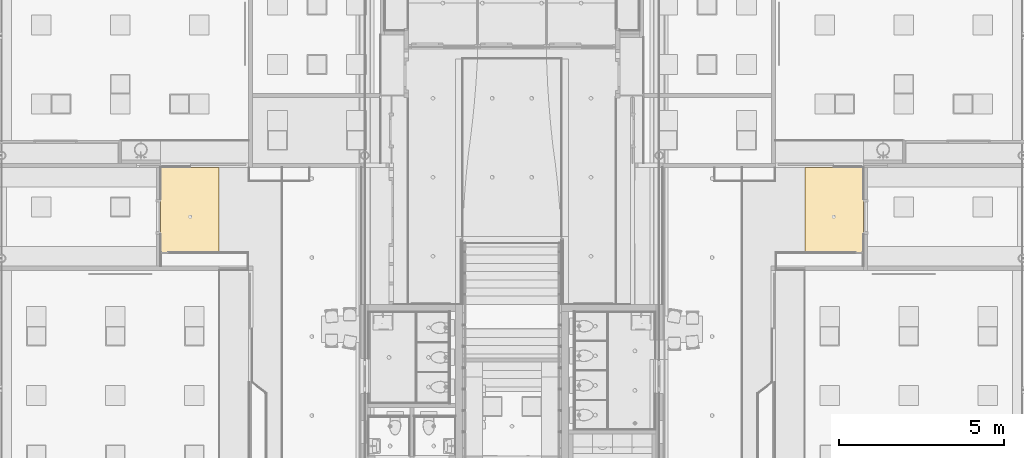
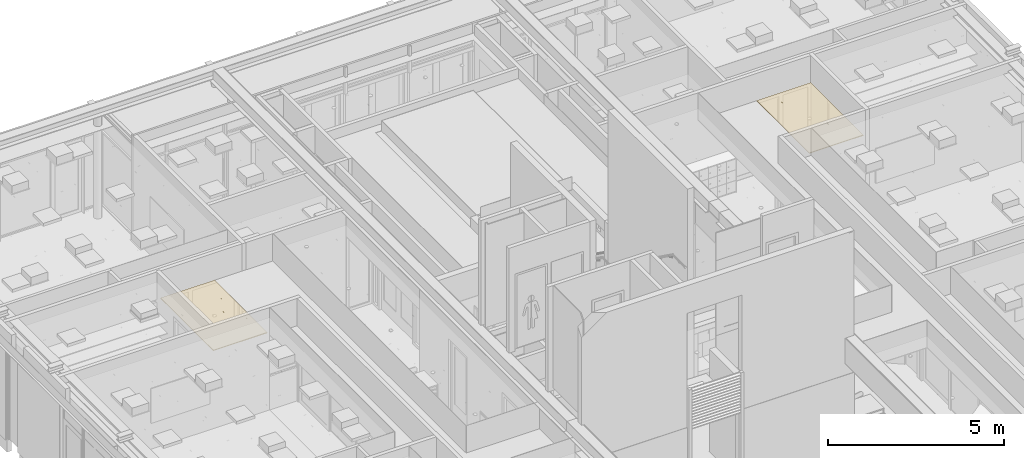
# One storey, part 154 of 347: 2 coverings.
"""IFC2X3 building model written with IfcOpenShell, lengths in millimetres."""

from ifc_helpers import new_model, entity, si_unit, converted_unit, derived_unit, money_unit, direction, frame, origin_with_axes, place, context, subcontext, project, spatial, faceted_brep, source, transform, mapped, type_object, type_shapes, element, save


model = new_model("IFC2X3")

# Units and contexts
model_context = context("Model", 3, precision=0.01, world=origin_with_axes(), true_north=direction((0.0, 1.0)))
plan_context = context("Plan", 3, precision=0.01, world=origin_with_axes(), true_north=direction((0.0, 1.0)))
body_context = subcontext(model_context, "Body", "Model", "MODEL_VIEW")
ifc_project = project(units=[si_unit("LENGTHUNIT", "METRE", prefix="MILLI"), si_unit("AREAUNIT", "SQUARE_METRE"), si_unit("VOLUMEUNIT", "CUBIC_METRE"), converted_unit("PLANEANGLEUNIT", "DEGREE", entity("IfcPlaneAngleMeasure", 0.0174532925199), si_unit("PLANEANGLEUNIT", "RADIAN"), dimensions=[0, 0, 0, 0, 0, 0, 0]), money_unit("EUR"), converted_unit("TIMEUNIT", "Year", entity("IfcTimeMeasure", 31556926.0), si_unit("TIMEUNIT", "SECOND"), dimensions=[0, 0, 1, 0, 0, 0, 0]), si_unit("MASSUNIT", "GRAM", prefix="KILO"), si_unit("THERMODYNAMICTEMPERATUREUNIT", "DEGREE_CELSIUS"), si_unit("LUMINOUSINTENSITYUNIT", "LUMEN"), si_unit("ENERGYUNIT", "JOULE", prefix="MEGA"), derived_unit("THERMALCONDUCTANCEUNIT", [(si_unit("POWERUNIT", "WATT"), 1), (si_unit("LENGTHUNIT", "METRE"), -1), (si_unit("THERMODYNAMICTEMPERATUREUNIT", "KELVIN"), -1)]), derived_unit("SPECIFICHEATCAPACITYUNIT", [(si_unit("ENERGYUNIT", "JOULE"), 1), (si_unit("MASSUNIT", "GRAM", prefix="KILO"), -1), (si_unit("THERMODYNAMICTEMPERATUREUNIT", "KELVIN"), -1)]), derived_unit("MASSDENSITYUNIT", [(si_unit("MASSUNIT", "GRAM", prefix="KILO"), 1), (si_unit("VOLUMEUNIT", "CUBIC_METRE"), -1)])], contexts=[model_context, plan_context])

# Site, building, storey
site_placement = place(None, origin_with_axes())
site = spatial("IfcSite", under=ifc_project, at=site_placement, Name="Site", CompositionType="ELEMENT")
building_placement = place(site_placement, origin_with_axes())
building = spatial("IfcBuilding", under=site, at=building_placement, Name="Naam gebouw", CompositionType="ELEMENT")
storey_placement = place(building_placement, origin_with_axes())
storey = spatial("IfcBuildingStorey", under=building, at=storey_placement, Name="begane grond", CompositionType="ELEMENT", Elevation=0.0)

# Coverings
covering_type = type_object("IfcCoveringType", Name="Ceiling Editor INT_v2.01", PredefinedType="CEILING")
shared_shape_1 = source(origin_with_axes(), body_context, "Body", "Brep", [
    faceted_brep([(443.75, 0.0, 20.0), (599.9, 0.0, 20.0), (599.9, 899.9, 20.0), (0.1, 899.9, 20.0), (0.1, 0.0, 20.0), (443.75, 0.0, 0.0), (599.9, 0.0, 0.0), (599.9, 899.9, 0.0), (0.1, 899.9, 0.0), (0.1, 0.0, 0.0)], [[[0, 1, 2, 3, 4]], [[1, 0, 5, 6]], [[1, 6, 7, 2]], [[2, 7, 8, 3]], [[9, 4, 3, 8]], [[0, 4, 9, 5]], [[5, 9, 8, 7, 6]]]),
    faceted_brep([(599.9, 900.1, 20.0), (599.9, 900.1, 0.0), (599.9, 2099.9, 0.0), (599.9, 2099.9, 20.0), (0.1, 900.1, 20.0), (0.1, 900.1, 0.0), (0.1, 2099.9, 0.0), (0.1, 2099.9, 20.0)], [[[0, 1, 2, 3]], [[4, 5, 1, 0]], [[2, 1, 5, 6]], [[3, 2, 6, 7]], [[4, 0, 3, 7]], [[7, 6, 5, 4]]]),
    faceted_brep([(599.9, 3000.0, 0.0), (599.9, 3000.0, 20.0), (599.9, 2100.1, 20.0), (599.9, 2100.1, 0.0), (443.75, 3000.0, 0.0), (443.75, 3000.0, 20.0), (0.1, 3000.0, 20.0), (0.1, 2100.1, 20.0), (0.1, 2100.1, 0.0), (0.1, 3000.0, 0.0)], [[[0, 1, 2, 3]], [[1, 0, 4, 5]], [[5, 6, 7, 2, 1]], [[7, 8, 3, 2]], [[4, 0, 3, 8, 9]], [[6, 5, 4, 9]], [[6, 9, 8, 7]]]),
    faceted_brep([(887.5, 0.0, 20.0), (1199.9, 0.0, 20.0), (1199.9, 899.9, 20.0), (600.1, 899.9, 20.0), (600.1, 0.0, 20.0), (887.5, 0.0, 0.0), (1199.9, 0.0, 0.0), (1199.9, 899.9, 0.0), (600.1, 899.9, 0.0), (600.1, 0.0, 0.0)], [[[0, 1, 2, 3, 4]], [[1, 0, 5, 6]], [[1, 6, 7, 2]], [[2, 7, 8, 3]], [[9, 4, 3, 8]], [[0, 4, 9, 5]], [[5, 9, 8, 7, 6]]]),
    faceted_brep([(1199.9, 900.1, 20.0), (1199.9, 900.1, 0.0), (1199.9, 2099.9, 0.0), (1199.9, 2099.9, 20.0), (600.1, 900.1, 20.0), (600.1, 900.1, 0.0), (600.1, 2099.9, 0.0), (600.1, 2099.9, 20.0)], [[[0, 1, 2, 3]], [[4, 5, 1, 0]], [[2, 1, 5, 6]], [[3, 2, 6, 7]], [[4, 0, 3, 7]], [[7, 6, 5, 4]]]),
    faceted_brep([(1199.9, 3000.0, 0.0), (1199.9, 3000.0, 20.0), (1199.9, 2100.1, 20.0), (1199.9, 2100.1, 0.0), (887.5, 3000.0, 0.0), (887.5, 3000.0, 20.0), (600.1, 3000.0, 20.0), (600.1, 2100.1, 20.0), (600.1, 2100.1, 0.0), (600.1, 3000.0, 0.0)], [[[0, 1, 2, 3]], [[1, 0, 4, 5]], [[5, 6, 7, 2, 1]], [[7, 8, 3, 2]], [[4, 0, 3, 8, 9]], [[6, 5, 4, 9]], [[6, 9, 8, 7]]]),
    faceted_brep([(1775.0, 750.0, 20.0), (1775.0, 899.9, 20.0), (1200.1, 899.9, 20.0), (1200.1, 0.0, 20.0), (1331.25, 0.0, 20.0), (1775.0, 0.0, 20.0), (1775.0, 750.0, 0.0), (1775.0, 899.9, 0.0), (1200.1, 899.9, 0.0), (1200.1, 0.0, 0.0), (1331.25, 0.0, 0.0), (1775.0, 0.0, 0.0)], [[[0, 1, 2, 3, 4, 5]], [[1, 0, 6, 7]], [[1, 7, 8, 2]], [[9, 3, 2, 8]], [[4, 3, 9, 10]], [[5, 4, 10, 11]], [[0, 5, 11, 6]], [[10, 9, 8, 7, 6, 11]]]),
    faceted_brep([(1775.0, 1500.0, 20.0), (1775.0, 2099.9, 20.0), (1200.1, 2099.9, 20.0), (1200.1, 900.1, 20.0), (1775.0, 900.1, 20.0), (1775.0, 1500.0, 0.0), (1775.0, 2099.9, 0.0), (1200.1, 2099.9, 0.0), (1200.1, 900.1, 0.0), (1775.0, 900.1, 0.0)], [[[0, 1, 2, 3, 4]], [[1, 0, 5, 6]], [[1, 6, 7, 2]], [[2, 7, 8, 3]], [[9, 4, 3, 8]], [[0, 4, 9, 5]], [[5, 9, 8, 7, 6]]]),
    faceted_brep([(1775.0, 2250.0, 20.0), (1775.0, 3000.0, 20.0), (1331.25, 3000.0, 20.0), (1200.1, 3000.0, 20.0), (1200.1, 2100.1, 20.0), (1775.0, 2100.1, 20.0), (1775.0, 2250.0, 0.0), (1775.0, 3000.0, 0.0), (1331.25, 3000.0, 0.0), (1200.1, 3000.0, 0.0), (1200.1, 2100.1, 0.0), (1775.0, 2100.1, 0.0)], [[[0, 1, 2, 3, 4, 5]], [[1, 0, 6, 7]], [[2, 1, 7, 8]], [[3, 2, 8, 9]], [[3, 9, 10, 4]], [[11, 5, 4, 10]], [[0, 5, 11, 6]], [[6, 11, 10, 9, 8, 7]]]),
    faceted_brep([(1775.0, 0.0, 0.0), (1775.0, 0.0, -5.0), (1775.0, 887.5, -5.0), (1775.0, 912.5, -5.0), (1775.0, 2087.5, -5.0), (1775.0, 2112.5, -5.0), (1775.0, 3000.0, -5.0), (1775.0, 3000.0, 0.0), (1775.0, 2112.5, 0.0), (1775.0, 2087.5, 0.0), (1775.0, 912.5, 0.0), (1775.0, 887.5, 0.0), (612.5, 0.0, -5.0), (1187.5, 0.0, -5.0), (1212.5, 0.0, -5.0), (1212.5, 0.0, 0.0), (1187.5, 0.0, 0.0), (612.5, 0.0, 0.0), (587.5, 0.0, 0.0), (12.5, 0.0, 0.0), (0.0, 0.0, 0.0), (0.0, 0.0, -5.0), (12.5, 0.0, -5.0), (587.5, 0.0, -5.0), (0.0, 750.0, -5.0), (0.0, 1500.0, -5.0), (0.0, 2250.0, -5.0), (0.0, 3000.0, -5.0), (12.5, 3000.0, -5.0), (587.5, 3000.0, -5.0), (612.5, 3000.0, -5.0), (1187.5, 3000.0, -5.0), (1212.5, 3000.0, -5.0), (25.0, 912.5, -5.0), (587.5, 912.5, -5.0), (587.5, 2087.5, -5.0), (25.0, 2087.5, -5.0), (1187.5, 912.5, -5.0), (1187.5, 2087.5, -5.0), (612.5, 2087.5, -5.0), (612.5, 912.5, -5.0), (587.5, 2975.0, -5.0), (25.0, 2975.0, -5.0), (25.0, 2112.5, -5.0), (587.5, 2112.5, -5.0), (1187.5, 2975.0, -5.0), (612.5, 2975.0, -5.0), (612.5, 2112.5, -5.0), (1187.5, 2112.5, -5.0), (1750.0, 2975.0, -5.0), (1212.5, 2975.0, -5.0), (1212.5, 2112.5, -5.0), (1750.0, 2112.5, -5.0), (1750.0, 2087.5, -5.0), (1212.5, 2087.5, -5.0), (1212.5, 912.5, -5.0), (1750.0, 912.5, -5.0), (1750.0, 25.0, -5.0), (1750.0, 887.5, -5.0), (1212.5, 887.5, -5.0), (1212.5, 25.0, -5.0), (587.5, 25.0, -5.0), (587.5, 887.5, -5.0), (25.0, 887.5, -5.0), (25.0, 25.0, -5.0), (1187.5, 25.0, -5.0), (1187.5, 887.5, -5.0), (612.5, 887.5, -5.0), (612.5, 25.0, -5.0), (0.0, 3000.0, 0.0), (12.5, 3000.0, 0.0), (587.5, 3000.0, 0.0), (612.5, 3000.0, 0.0), (1187.5, 3000.0, 0.0), (1212.5, 3000.0, 0.0), (0.0, 2250.0, 0.0), (0.0, 1500.0, 0.0), (0.0, 750.0, 0.0), (25.0, 2087.5, 0.0), (587.5, 2087.5, 0.0), (587.5, 912.5, 0.0), (25.0, 912.5, 0.0), (612.5, 2087.5, 0.0), (1187.5, 2087.5, 0.0), (1187.5, 912.5, 0.0), (612.5, 912.5, 0.0), (587.5, 2975.0, 0.0), (587.5, 2112.5, 0.0), (25.0, 2112.5, 0.0), (25.0, 2975.0, 0.0), (1187.5, 2975.0, 0.0), (1187.5, 2112.5, 0.0), (612.5, 2112.5, 0.0), (612.5, 2975.0, 0.0), (1750.0, 2112.5, 0.0), (1212.5, 2112.5, 0.0), (1212.5, 2975.0, 0.0), (1750.0, 2975.0, 0.0), (1750.0, 912.5, 0.0), (1212.5, 912.5, 0.0), (1212.5, 2087.5, 0.0), (1750.0, 2087.5, 0.0), (1212.5, 25.0, 0.0), (1212.5, 887.5, 0.0), (1750.0, 887.5, 0.0), (1750.0, 25.0, 0.0), (587.5, 25.0, 0.0), (25.0, 25.0, 0.0), (25.0, 887.5, 0.0), (587.5, 887.5, 0.0), (612.5, 25.0, 0.0), (612.5, 887.5, 0.0), (1187.5, 887.5, 0.0), (1187.5, 25.0, 0.0)], [[[0, 1, 2, 3, 4, 5, 6, 7, 8, 9, 10, 11]], [[12, 13, 14, 1, 0, 15, 16, 17, 18, 19, 20, 21, 22, 23]], [[12, 23, 22, 21, 24, 25, 26, 27, 28, 29, 30, 31, 32, 6, 5, 4, 3, 2, 1, 14, 13], [33, 34, 35, 36], [37, 38, 39, 40], [41, 42, 43, 44], [45, 46, 47, 48], [49, 50, 51, 52], [53, 54, 55, 56], [57, 58, 59, 60], [61, 62, 63, 64], [65, 66, 67, 68]], [[7, 6, 32, 31, 30, 29, 28, 27, 69, 70, 71, 72, 73, 74]], [[16, 15, 0, 11, 10, 9, 8, 7, 74, 73, 72, 71, 70, 69, 75, 76, 77, 20, 19, 18, 17], [78, 79, 80, 81], [82, 83, 84, 85], [86, 87, 88, 89], [90, 91, 92, 93], [94, 95, 96, 97], [98, 99, 100, 101], [102, 103, 104, 105], [106, 107, 108, 109], [110, 111, 112, 113]], [[24, 21, 20, 77]], [[25, 24, 77, 76]], [[26, 25, 76, 75]], [[27, 26, 75, 69]], [[33, 81, 80, 34]], [[80, 79, 35, 34]], [[78, 36, 35, 79]], [[36, 78, 81, 33]], [[84, 83, 38, 37]], [[39, 38, 83, 82]], [[40, 39, 82, 85]], [[85, 84, 37, 40]], [[41, 86, 89, 42]], [[42, 89, 88, 43]], [[43, 88, 87, 44]], [[86, 41, 44, 87]], [[45, 90, 93, 46]], [[46, 93, 92, 47]], [[92, 91, 48, 47]], [[90, 45, 48, 91]], [[49, 97, 96, 50]], [[50, 96, 95, 51]], [[94, 52, 51, 95]], [[94, 97, 49, 52]], [[53, 101, 100, 54]], [[55, 54, 100, 99]], [[98, 56, 55, 99]], [[98, 101, 53, 56]], [[57, 105, 104, 58]], [[58, 104, 103, 59]], [[102, 60, 59, 103]], [[102, 105, 57, 60]], [[61, 106, 109, 62]], [[108, 63, 62, 109]], [[63, 108, 107, 64]], [[106, 61, 64, 107]], [[65, 113, 112, 66]], [[67, 66, 112, 111]], [[110, 68, 67, 111]], [[110, 113, 65, 68]]]),
])
covering_1_placement = place(storey_placement, frame((29400.0, 35962.5, 2600.0), z_axis=(0.0, 0.0, 1.0), x_axis=(1.0, 0.0, 0.0)))
element("IfcCovering", 1, at=covering_1_placement, inside=storey, type_object=covering_type, Name="45 Plafondafwerkingen_77 garderobe", PredefinedType="CEILING", context=body_context, shape_type="MappedRepresentation", body=[
    mapped(shared_shape_1, transform((0.0, 0.0, 0.0))),
])
shared_shape_2 = source(origin_with_axes(), body_context, "Body", "Brep", [
    faceted_brep([(-443.75, 0.0, 20.0), (-0.1, 0.0, 20.0), (-0.1, 899.9, 20.0), (-599.9, 899.9, 20.0), (-599.9, 0.0, 20.0), (-443.75, 0.0, 0.0), (-0.1, 0.0, 0.0), (-0.1, 899.9, 0.0), (-599.9, 899.9, 0.0), (-599.9, 0.0, 0.0)], [[[0, 1, 2, 3, 4]], [[0, 5, 6, 1]], [[6, 7, 2, 1]], [[3, 2, 7, 8]], [[4, 3, 8, 9]], [[4, 9, 5, 0]], [[5, 9, 8, 7, 6]]]),
    faceted_brep([(-599.9, 900.1, 20.0), (-599.9, 2099.9, 20.0), (-599.9, 2099.9, 0.0), (-599.9, 900.1, 0.0), (-0.1, 900.1, 20.0), (-0.1, 2099.9, 20.0), (-0.1, 2099.9, 0.0), (-0.1, 900.1, 0.0)], [[[0, 1, 2, 3]], [[4, 5, 1, 0]], [[1, 5, 6, 2]], [[2, 6, 7, 3]], [[4, 0, 3, 7]], [[5, 4, 7, 6]]]),
    faceted_brep([(-599.9, 3000.0, 0.0), (-599.9, 2100.1, 0.0), (-599.9, 2100.1, 20.0), (-599.9, 3000.0, 20.0), (-443.75, 3000.0, 0.0), (-0.1, 3000.0, 0.0), (-0.1, 2100.1, 0.0), (-0.1, 2100.1, 20.0), (-443.75, 3000.0, 20.0), (-0.1, 3000.0, 20.0)], [[[0, 1, 2, 3]], [[4, 5, 6, 1, 0]], [[7, 2, 1, 6]], [[8, 3, 2, 7, 9]], [[3, 8, 4, 0]], [[9, 5, 4, 8]], [[9, 7, 6, 5]]]),
    faceted_brep([(-887.5, 0.0, 20.0), (-600.1, 0.0, 20.0), (-600.1, 899.9, 20.0), (-1199.9, 899.9, 20.0), (-1199.9, 0.0, 20.0), (-887.5, 0.0, 0.0), (-600.1, 0.0, 0.0), (-600.1, 899.9, 0.0), (-1199.9, 899.9, 0.0), (-1199.9, 0.0, 0.0)], [[[0, 1, 2, 3, 4]], [[0, 5, 6, 1]], [[6, 7, 2, 1]], [[3, 2, 7, 8]], [[4, 3, 8, 9]], [[4, 9, 5, 0]], [[5, 9, 8, 7, 6]]]),
    faceted_brep([(-1199.9, 900.1, 20.0), (-1199.9, 2099.9, 20.0), (-1199.9, 2099.9, 0.0), (-1199.9, 900.1, 0.0), (-600.1, 900.1, 20.0), (-600.1, 2099.9, 20.0), (-600.1, 2099.9, 0.0), (-600.1, 900.1, 0.0)], [[[0, 1, 2, 3]], [[4, 5, 1, 0]], [[1, 5, 6, 2]], [[2, 6, 7, 3]], [[4, 0, 3, 7]], [[5, 4, 7, 6]]]),
    faceted_brep([(-1199.9, 3000.0, 0.0), (-1199.9, 2100.1, 0.0), (-1199.9, 2100.1, 20.0), (-1199.9, 3000.0, 20.0), (-887.5, 3000.0, 0.0), (-600.1, 3000.0, 0.0), (-600.1, 2100.1, 0.0), (-600.1, 2100.1, 20.0), (-887.5, 3000.0, 20.0), (-600.1, 3000.0, 20.0)], [[[0, 1, 2, 3]], [[4, 5, 6, 1, 0]], [[7, 2, 1, 6]], [[8, 3, 2, 7, 9]], [[3, 8, 4, 0]], [[9, 5, 4, 8]], [[9, 7, 6, 5]]]),
    faceted_brep([(-1775.0, 750.0, 20.0), (-1775.0, 0.0, 20.0), (-1331.25, 0.0, 20.0), (-1200.1, 0.0, 20.0), (-1200.1, 899.9, 20.0), (-1775.0, 899.9, 20.0), (-1775.0, 750.0, 0.0), (-1775.0, 0.0, 0.0), (-1331.25, 0.0, 0.0), (-1200.1, 0.0, 0.0), (-1200.1, 899.9, 0.0), (-1775.0, 899.9, 0.0)], [[[0, 1, 2, 3, 4, 5]], [[0, 6, 7, 1]], [[1, 7, 8, 2]], [[2, 8, 9, 3]], [[9, 10, 4, 3]], [[5, 4, 10, 11]], [[5, 11, 6, 0]], [[8, 7, 6, 11, 10, 9]]]),
    faceted_brep([(-1775.0, 1500.0, 20.0), (-1775.0, 900.1, 20.0), (-1200.1, 900.1, 20.0), (-1200.1, 2099.9, 20.0), (-1775.0, 2099.9, 20.0), (-1775.0, 1500.0, 0.0), (-1775.0, 900.1, 0.0), (-1200.1, 900.1, 0.0), (-1200.1, 2099.9, 0.0), (-1775.0, 2099.9, 0.0)], [[[0, 1, 2, 3, 4]], [[0, 5, 6, 1]], [[6, 7, 2, 1]], [[3, 2, 7, 8]], [[4, 3, 8, 9]], [[4, 9, 5, 0]], [[5, 9, 8, 7, 6]]]),
    faceted_brep([(-1775.0, 2250.0, 20.0), (-1775.0, 2100.1, 20.0), (-1200.1, 2100.1, 20.0), (-1200.1, 3000.0, 20.0), (-1331.25, 3000.0, 20.0), (-1775.0, 3000.0, 20.0), (-1775.0, 2250.0, 0.0), (-1775.0, 2100.1, 0.0), (-1200.1, 2100.1, 0.0), (-1200.1, 3000.0, 0.0), (-1331.25, 3000.0, 0.0), (-1775.0, 3000.0, 0.0)], [[[0, 1, 2, 3, 4, 5]], [[0, 6, 7, 1]], [[7, 8, 2, 1]], [[3, 2, 8, 9]], [[3, 9, 10, 4]], [[4, 10, 11, 5]], [[5, 11, 6, 0]], [[6, 11, 10, 9, 8, 7]]]),
    faceted_brep([(-1775.0, 0.0, 0.0), (-1775.0, 887.5, 0.0), (-1775.0, 912.5, 0.0), (-1775.0, 2087.5, 0.0), (-1775.0, 2112.5, 0.0), (-1775.0, 3000.0, 0.0), (-1775.0, 3000.0, -5.0), (-1775.0, 2112.5, -5.0), (-1775.0, 2087.5, -5.0), (-1775.0, 912.5, -5.0), (-1775.0, 887.5, -5.0), (-1775.0, 0.0, -5.0), (-1187.5, 0.0, 0.0), (-612.5, 0.0, 0.0), (-587.5, 0.0, 0.0), (-12.5, 0.0, 0.0), (0.0, 0.0, 0.0), (0.0, 750.0, 0.0), (0.0, 1500.0, 0.0), (0.0, 2250.0, 0.0), (0.0, 3000.0, 0.0), (-12.5, 3000.0, 0.0), (-587.5, 3000.0, 0.0), (-612.5, 3000.0, 0.0), (-1187.5, 3000.0, 0.0), (-1212.5, 3000.0, 0.0), (-1212.5, 0.0, 0.0), (-25.0, 2087.5, 0.0), (-25.0, 912.5, 0.0), (-587.5, 912.5, 0.0), (-587.5, 2087.5, 0.0), (-612.5, 2087.5, 0.0), (-612.5, 912.5, 0.0), (-1187.5, 912.5, 0.0), (-1187.5, 2087.5, 0.0), (-587.5, 2975.0, 0.0), (-25.0, 2975.0, 0.0), (-25.0, 2112.5, 0.0), (-587.5, 2112.5, 0.0), (-1187.5, 2975.0, 0.0), (-612.5, 2975.0, 0.0), (-612.5, 2112.5, 0.0), (-1187.5, 2112.5, 0.0), (-1750.0, 2112.5, 0.0), (-1750.0, 2975.0, 0.0), (-1212.5, 2975.0, 0.0), (-1212.5, 2112.5, 0.0), (-1750.0, 912.5, 0.0), (-1750.0, 2087.5, 0.0), (-1212.5, 2087.5, 0.0), (-1212.5, 912.5, 0.0), (-1212.5, 25.0, 0.0), (-1750.0, 25.0, 0.0), (-1750.0, 887.5, 0.0), (-1212.5, 887.5, 0.0), (-587.5, 25.0, 0.0), (-587.5, 887.5, 0.0), (-25.0, 887.5, 0.0), (-25.0, 25.0, 0.0), (-612.5, 25.0, 0.0), (-1187.5, 25.0, 0.0), (-1187.5, 887.5, 0.0), (-612.5, 887.5, 0.0), (0.0, 3000.0, -5.0), (-12.5, 3000.0, -5.0), (-587.5, 3000.0, -5.0), (-612.5, 3000.0, -5.0), (-1187.5, 3000.0, -5.0), (-1212.5, 3000.0, -5.0), (-612.5, 0.0, -5.0), (-1187.5, 0.0, -5.0), (-1212.5, 0.0, -5.0), (0.0, 2250.0, -5.0), (0.0, 1500.0, -5.0), (0.0, 750.0, -5.0), (0.0, 0.0, -5.0), (-12.5, 0.0, -5.0), (-587.5, 0.0, -5.0), (-25.0, 912.5, -5.0), (-25.0, 2087.5, -5.0), (-587.5, 2087.5, -5.0), (-587.5, 912.5, -5.0), (-1187.5, 912.5, -5.0), (-612.5, 912.5, -5.0), (-612.5, 2087.5, -5.0), (-1187.5, 2087.5, -5.0), (-587.5, 2975.0, -5.0), (-587.5, 2112.5, -5.0), (-25.0, 2112.5, -5.0), (-25.0, 2975.0, -5.0), (-1187.5, 2975.0, -5.0), (-1187.5, 2112.5, -5.0), (-612.5, 2112.5, -5.0), (-612.5, 2975.0, -5.0), (-1750.0, 2975.0, -5.0), (-1750.0, 2112.5, -5.0), (-1212.5, 2112.5, -5.0), (-1212.5, 2975.0, -5.0), (-1750.0, 2087.5, -5.0), (-1750.0, 912.5, -5.0), (-1212.5, 912.5, -5.0), (-1212.5, 2087.5, -5.0), (-1750.0, 25.0, -5.0), (-1212.5, 25.0, -5.0), (-1212.5, 887.5, -5.0), (-1750.0, 887.5, -5.0), (-587.5, 25.0, -5.0), (-25.0, 25.0, -5.0), (-25.0, 887.5, -5.0), (-587.5, 887.5, -5.0), (-1187.5, 25.0, -5.0), (-612.5, 25.0, -5.0), (-612.5, 887.5, -5.0), (-1187.5, 887.5, -5.0)], [[[0, 1, 2, 3, 4, 5, 6, 7, 8, 9, 10, 11]], [[12, 13, 14, 15, 16, 17, 18, 19, 20, 21, 22, 23, 24, 25, 5, 4, 3, 2, 1, 0, 26], [27, 28, 29, 30], [31, 32, 33, 34], [35, 36, 37, 38], [39, 40, 41, 42], [43, 44, 45, 46], [47, 48, 49, 50], [51, 52, 53, 54], [55, 56, 57, 58], [59, 60, 61, 62]], [[5, 25, 24, 23, 22, 21, 20, 63, 64, 65, 66, 67, 68, 6]], [[69, 70, 71, 11, 10, 9, 8, 7, 6, 68, 67, 66, 65, 64, 63, 72, 73, 74, 75, 76, 77], [78, 79, 80, 81], [82, 83, 84, 85], [86, 87, 88, 89], [90, 91, 92, 93], [94, 95, 96, 97], [98, 99, 100, 101], [102, 103, 104, 105], [106, 107, 108, 109], [110, 111, 112, 113]], [[69, 77, 76, 75, 16, 15, 14, 13, 12, 26, 0, 11, 71, 70]], [[74, 17, 16, 75]], [[73, 18, 17, 74]], [[72, 19, 18, 73]], [[63, 20, 19, 72]], [[79, 78, 28, 27]], [[78, 81, 29, 28]], [[29, 81, 80, 30]], [[27, 30, 80, 79]], [[83, 32, 31, 84]], [[32, 83, 82, 33]], [[33, 82, 85, 34]], [[84, 31, 34, 85]], [[86, 89, 36, 35]], [[89, 88, 37, 36]], [[88, 87, 38, 37]], [[35, 38, 87, 86]], [[90, 93, 40, 39]], [[93, 92, 41, 40]], [[41, 92, 91, 42]], [[39, 42, 91, 90]], [[43, 95, 94, 44]], [[94, 97, 45, 44]], [[97, 96, 46, 45]], [[43, 46, 96, 95]], [[47, 99, 98, 48]], [[98, 101, 49, 48]], [[100, 50, 49, 101]], [[47, 50, 100, 99]], [[51, 103, 102, 52]], [[102, 105, 53, 52]], [[105, 104, 54, 53]], [[51, 54, 104, 103]], [[106, 109, 56, 55]], [[57, 56, 109, 108]], [[108, 107, 58, 57]], [[55, 58, 107, 106]], [[59, 111, 110, 60]], [[110, 113, 61, 60]], [[112, 62, 61, 113]], [[59, 62, 112, 111]]]),
])
type_shapes(covering_type, [shared_shape_1, shared_shape_2])
covering_2_placement = place(storey_placement, frame((50750.0, 35962.5, 2600.0), z_axis=(0.0, 0.0, 1.0), x_axis=(1.0, 0.0, 0.0)))
element("IfcCovering", 2, at=covering_2_placement, inside=storey, type_object=covering_type, Name="45 Plafondafwerkingen_77 garderobe", PredefinedType="CEILING", context=body_context, shape_type="MappedRepresentation", body=[
    mapped(shared_shape_2, transform((0.0, 0.0, 0.0))),
])

save(model, "model.ifc")
